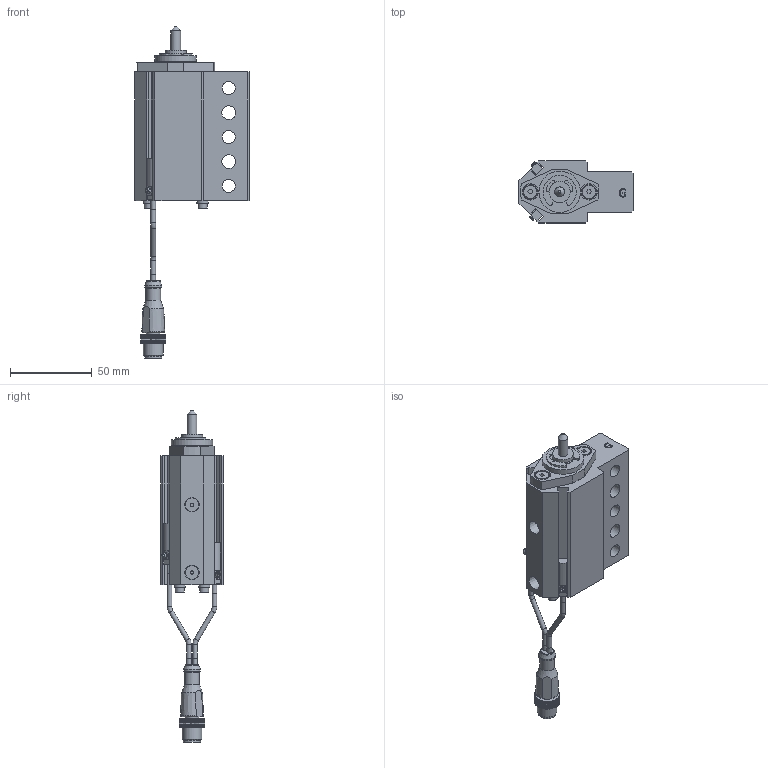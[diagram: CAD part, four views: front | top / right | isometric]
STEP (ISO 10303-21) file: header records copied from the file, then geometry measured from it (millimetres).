
FILE_DESCRIPTION(/* description */ ('NAAMS FLOATING MICRO PIN'),/* implementation_level */ '2;1');
FILE_NAME(/* name */ 'C:\Vault Workspace\CAD\Welker\Shot Pin\NMP\NMP060012GANL3.stp',/* time_stamp */ '2021-01-27T08:29:08-05:00',/* author */ ('KLabrecque'),/* organization */ (''),/* preprocessor_version */ 'ST-DEVELOPER v18.1',/* originating_system */ 'Autodesk Inventor 2020',/* authorisation */ '');
FILE_SCHEMA (('AUTOMOTIVE_DESIGN { 1 0 10303 214 3 1 1 }'));
Length unit declared in the file: millimetre
Products named in the file (16): NMPL01; NMP L3 SWITCH; L3 Connector; L3 Sensor 1; L3 Sensor 2; L3 Sensor cable; L3 Sensor cable 2; M3X0.5-8 SHCS; NL3; NMPE06; NMPE03; NMPE05-DIA-LENGTH; 985432A218; NMPE01G-PORT; RMPE02; M5X5 SHOULDER
Assembly tree (22 placements, depth 3):
  NMPL01
    NMP L3 SWITCH
      L3 Connector
      L3 Sensor 1
      L3 Sensor 2
      L3 Sensor cable
      L3 Sensor cable 2
    M3X0.5-8 SHCS  x4
    NL3  x4
    NMPE06
    NMPE03
    NMPE05-DIA-LENGTH
    985432A218
    NMPE01G-PORT
    RMPE02
    M5X5 SHOULDER  x2
Bounding box: 70 x 38.1 x 203.54 mm (x, y, z)
Volume: 131203.5 mm3; surface area: 49264 mm2
Topology: 21 solids, 21 shells, 760 faces, 2090 edges, 1402 vertices
Faces by surface type: plane 546, cylinder 149, cone 35, bspline 16, torus 11, sphere 3
Full cylindrical faces by diameter (mm): 2 x2, 2.459 x4, 2.9 x10, 3 x5, 3.242 x2, 3.4 x4, 4 x2, 5 x6, 5.5 x4, 6 x1, 6.647 x2, 7 x4, 8 x5, 8.3 x2, 8.5 x2, 9 x3, 10 x3, 10.4 x1, 10.5 x1, 12 x1, 13 x3, 16 x2, 19.05 x3, 21 x1, 22.5 x1, 23.673 x1, 24 x1, 25.4 x1, 25.5 x1, 26.5 x1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
Entity records: 23785 total; most frequent: CARTESIAN_POINT 4688, ORIENTED_EDGE 3870, DIRECTION 3771, EDGE_CURVE 1935, LINE 1391, VECTOR 1391, VERTEX_POINT 1307, AXIS2_PLACEMENT_3D 1190
